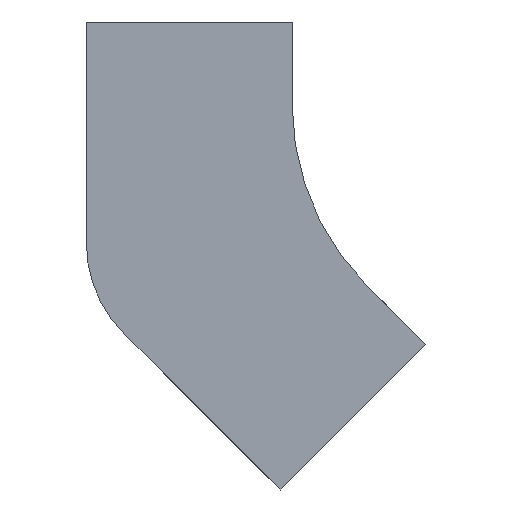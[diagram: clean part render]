
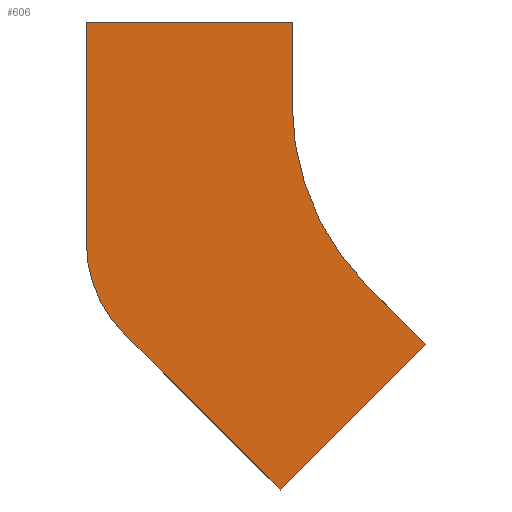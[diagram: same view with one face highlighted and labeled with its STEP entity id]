
A CAD part, front view. The second image highlights one B-rep face of the part: STEP entity #606.
In plain terms, the highlighted planar face has unit normal (0, -1, 0).
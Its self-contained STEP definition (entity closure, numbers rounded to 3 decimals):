
#7 = ORIENTED_EDGE ( 'NONE', *, *, #88, .F. ) ;
#20 = VERTEX_POINT ( 'NONE', #621 ) ;
#50 = VECTOR ( 'NONE', #221, 1000. ) ;
#88 = EDGE_CURVE ( 'NONE', #142, #20, #401, .T. ) ;
#107 = AXIS2_PLACEMENT_3D ( 'NONE', #1493, #998, #775 ) ;
#110 = VERTEX_POINT ( 'NONE', #1423 ) ;
#142 = VERTEX_POINT ( 'NONE', #1303 ) ;
#179 = DIRECTION ( 'NONE',  ( -0.707, 0., -0.707 ) ) ;
#181 = CARTESIAN_POINT ( 'NONE',  ( -88.388, 0., -88.388 ) ) ;
#221 = DIRECTION ( 'NONE',  ( 0., 0., 1. ) ) ;
#297 = LINE ( 'NONE', #1320, #1132 ) ;
#304 = CARTESIAN_POINT ( 'NONE',  ( -60.104, 0., -116.673 ) ) ;
#336 = VERTEX_POINT ( 'NONE', #1110 ) ;
#401 = LINE ( 'NONE', #933, #490 ) ;
#478 = EDGE_CURVE ( 'NONE', #1248, #1519, #1432, .T. ) ;
#490 = VECTOR ( 'NONE', #543, 1000. ) ;
#510 = VERTEX_POINT ( 'NONE', #1011 ) ;
#516 = DIRECTION ( 'NONE',  ( -0.707, 0., 0.707 ) ) ;
#543 = DIRECTION ( 'NONE',  ( 1., 0., 0. ) ) ;
#606 = ADVANCED_FACE ( 'NONE', ( #1376 ), #1638, .T. ) ;
#621 = CARTESIAN_POINT ( 'NONE',  ( -125., 0., 40. ) ) ;
#634 = CIRCLE ( 'NONE', #1460, 125. ) ;
#635 = CARTESIAN_POINT ( 'NONE',  ( -225., 0., -67.31 ) ) ;
#675 = EDGE_CURVE ( 'NONE', #1643, #510, #1457, .T. ) ;
#684 = CARTESIAN_POINT ( 'NONE',  ( -60.104, 0., -116.673 ) ) ;
#716 = ORIENTED_EDGE ( 'NONE', *, *, #1052, .F. ) ;
#775 = DIRECTION ( 'NONE',  ( 0., 0., -1. ) ) ;
#803 = CARTESIAN_POINT ( 'NONE',  ( -206.694, 0., -111.504 ) ) ;
#816 = EDGE_CURVE ( 'NONE', #336, #110, #634, .T. ) ;
#864 = CARTESIAN_POINT ( 'NONE',  ( -225., 0., -67.31 ) ) ;
#869 = EDGE_CURVE ( 'NONE', #110, #1643, #1339, .T. ) ;
#924 = AXIS2_PLACEMENT_3D ( 'NONE', #964, #1215, #1104 ) ;
#933 = CARTESIAN_POINT ( 'NONE',  ( -225., 0., 40. ) ) ;
#949 = VECTOR ( 'NONE', #1604, 1000. ) ;
#964 = CARTESIAN_POINT ( 'NONE',  ( -162.5, 0., -67.31 ) ) ;
#998 = DIRECTION ( 'NONE',  ( 0., -1., 0. ) ) ;
#1011 = CARTESIAN_POINT ( 'NONE',  ( -130.815, 0., -187.383 ) ) ;
#1012 = ORIENTED_EDGE ( 'NONE', *, *, #675, .F. ) ;
#1017 = CARTESIAN_POINT ( 'NONE',  ( -130.815, 0., -187.383 ) ) ;
#1045 = ORIENTED_EDGE ( 'NONE', *, *, #869, .F. ) ;
#1052 = EDGE_CURVE ( 'NONE', #1519, #142, #1103, .T. ) ;
#1053 = DIRECTION ( 'NONE',  ( 0., -1., 0. ) ) ;
#1103 = LINE ( 'NONE', #864, #50 ) ;
#1104 = DIRECTION ( 'NONE',  ( 0., 0., 1. ) ) ;
#1110 = CARTESIAN_POINT ( 'NONE',  ( -125., 0., 0. ) ) ;
#1119 = EDGE_CURVE ( 'NONE', #510, #1248, #1420, .T. ) ;
#1132 = VECTOR ( 'NONE', #1464, 1000. ) ;
#1169 = DIRECTION ( 'NONE',  ( 0., 0., -1. ) ) ;
#1215 = DIRECTION ( 'NONE',  ( 0., 1., 0. ) ) ;
#1247 = EDGE_CURVE ( 'NONE', #20, #336, #297, .T. ) ;
#1248 = VERTEX_POINT ( 'NONE', #803 ) ;
#1303 = CARTESIAN_POINT ( 'NONE',  ( -225., 0., 40. ) ) ;
#1305 = CARTESIAN_POINT ( 'NONE',  ( 0., 0., 0. ) ) ;
#1320 = CARTESIAN_POINT ( 'NONE',  ( -125., 0., 40. ) ) ;
#1339 = LINE ( 'NONE', #181, #949 ) ;
#1357 = ORIENTED_EDGE ( 'NONE', *, *, #816, .F. ) ;
#1376 = FACE_OUTER_BOUND ( 'NONE', #1437, .T. ) ;
#1420 = LINE ( 'NONE', #1017, #1569 ) ;
#1423 = CARTESIAN_POINT ( 'NONE',  ( -88.388, 0., -88.388 ) ) ;
#1432 = CIRCLE ( 'NONE', #924, 62.5 ) ;
#1437 = EDGE_LOOP ( 'NONE', ( #7, #716, #1665, #1611, #1012, #1045, #1357, #1599 ) ) ;
#1457 = LINE ( 'NONE', #304, #1597 ) ;
#1460 = AXIS2_PLACEMENT_3D ( 'NONE', #1305, #1053, #1169 ) ;
#1464 = DIRECTION ( 'NONE',  ( 0., 0., -1. ) ) ;
#1493 = CARTESIAN_POINT ( 'NONE',  ( 0., 0., 0. ) ) ;
#1519 = VERTEX_POINT ( 'NONE', #635 ) ;
#1569 = VECTOR ( 'NONE', #516, 1000. ) ;
#1597 = VECTOR ( 'NONE', #179, 1000. ) ;
#1599 = ORIENTED_EDGE ( 'NONE', *, *, #1247, .F. ) ;
#1604 = DIRECTION ( 'NONE',  ( 0.707, 0., -0.707 ) ) ;
#1611 = ORIENTED_EDGE ( 'NONE', *, *, #1119, .F. ) ;
#1638 = PLANE ( 'NONE',  #107 ) ;
#1643 = VERTEX_POINT ( 'NONE', #684 ) ;
#1665 = ORIENTED_EDGE ( 'NONE', *, *, #478, .F. ) ;
